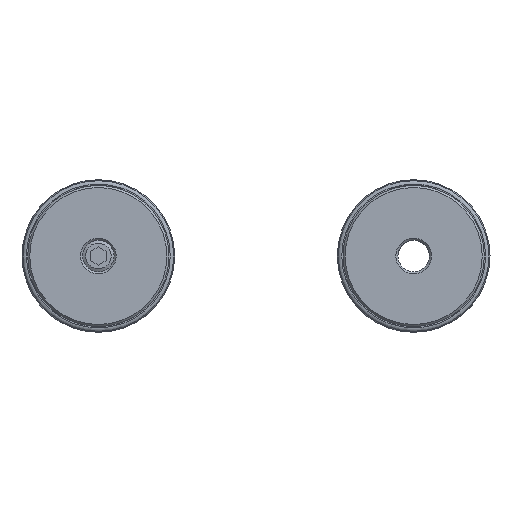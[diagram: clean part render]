
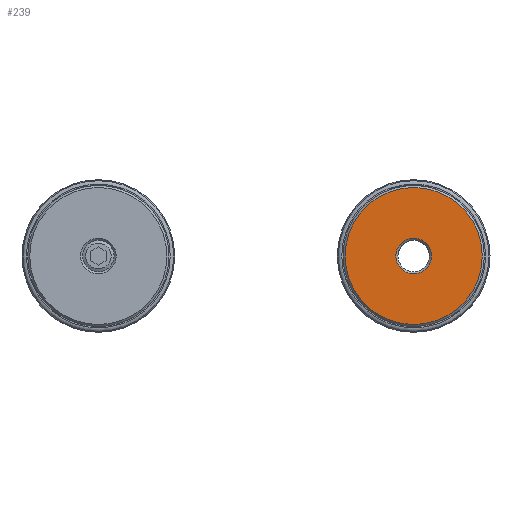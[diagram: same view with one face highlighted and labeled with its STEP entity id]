
A CAD part, left-side view. The second image highlights one B-rep face of the part: STEP entity #239.
In plain terms, the highlighted planar face has unit normal (-1, 0, 0).
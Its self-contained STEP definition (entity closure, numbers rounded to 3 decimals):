
#239 = ADVANCED_FACE( 'NONE', ( #425, #426 ), #427, .F. );
#425 = FACE_OUTER_BOUND( '', #732, .T. );
#426 = FACE_BOUND( '', #733, .T. );
#427 = PLANE( '', #734 );
#732 = EDGE_LOOP( '', ( #1056 ) );
#733 = EDGE_LOOP( '', ( #1057 ) );
#734 = AXIS2_PLACEMENT_3D( '', #1058, #1059, #1060 );
#1056 = ORIENTED_EDGE( '', *, *, #1575, .T. );
#1057 = ORIENTED_EDGE( '', *, *, #1576, .T. );
#1058 = CARTESIAN_POINT( '', ( 0., 1.5, 0. ) );
#1059 = DIRECTION( '', ( 1., 0., 0. ) );
#1060 = DIRECTION( '', ( 0., 1., 0. ) );
#1575 = EDGE_CURVE( 'NONE', #1699, #1699, #1700, .F. );
#1576 = EDGE_CURVE( 'NONE', #1701, #1701, #1702, .T. );
#1699 = VERTEX_POINT( '', #1883 );
#1700 = CIRCLE( '', #1884, 6.55 );
#1701 = VERTEX_POINT( '', #1885 );
#1702 = CIRCLE( '', #1886, 1.7 );
#1883 = CARTESIAN_POINT( '', ( 0., 0., -6.55 ) );
#1884 = AXIS2_PLACEMENT_3D( '', #2118, #2119, #2120 );
#1885 = CARTESIAN_POINT( '', ( 0., 0., -1.7 ) );
#1886 = AXIS2_PLACEMENT_3D( '', #2121, #2122, #2123 );
#2118 = CARTESIAN_POINT( '', ( 0., 0., 0. ) );
#2119 = DIRECTION( '', ( 1., 0., 0. ) );
#2120 = DIRECTION( '', ( 0., 0., -1. ) );
#2121 = CARTESIAN_POINT( '', ( 0., 0., 0. ) );
#2122 = DIRECTION( '', ( 1., 0., 0. ) );
#2123 = DIRECTION( '', ( 0., 0., -1. ) );
